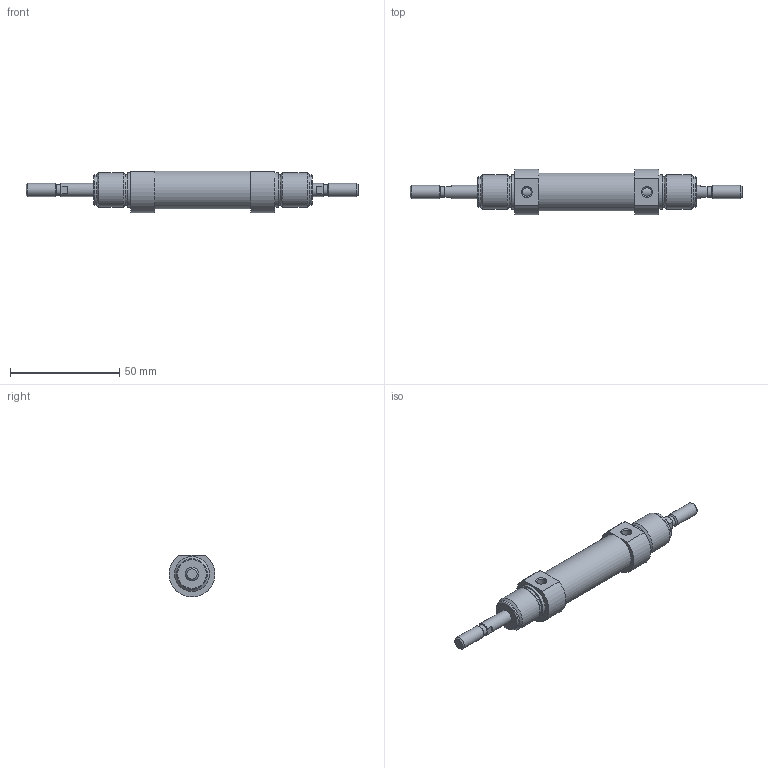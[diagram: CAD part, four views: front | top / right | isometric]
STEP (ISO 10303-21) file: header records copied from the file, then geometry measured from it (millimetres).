
FILE_DESCRIPTION( ( 'STEP AP203' ), '1' );
FILE_NAME( '//expscmdclustefs.cadenas.external/client_exchange/iodir/jobs/output/wkb68412698_no0/STEP/M101-016-0010-M__0__2_03.stp', ' ', ( ' ' ), ( ' ' ), 'PSStep 15.0.47', 'PARTsolutions', ' ' );
FILE_SCHEMA( ( 'CONFIG_CONTROL_DESIGN' ) );
Length unit declared in the file: millimetre
Products named in the file (3): M101-016-0010-M [0]; HI_M101-016-0010-M-[0]-z; HI_M101-016-0010-M-[0]-k
Assembly tree (2 placements, depth 2):
  M101-016-0010-M [0]
    HI_M101-016-0010-M-[0]-z
    HI_M101-016-0010-M-[0]-k
Bounding box: 152 x 20.94 x 19.09 mm (x, y, z)
Volume: 23661 mm3; surface area: 12619.4 mm2
Topology: 2 solids, 2 shells, 67 faces, 135 edges, 82 vertices
Faces by surface type: plane 28, cylinder 23, cone 14, torus 2
Full cylindrical faces by diameter (mm): 4.134 x2, 4.773 x2, 6 x6, 14.16 x4, 16 x6, 17.3 x1
Entity records: 1730 total; most frequent: CARTESIAN_POINT 334, DIRECTION 292, ORIENTED_EDGE 196, AXIS2_PLACEMENT_3D 132, EDGE_LOOP 116, EDGE_CURVE 98, FACE_OUTER_BOUND 90, VERTEX_POINT 78
